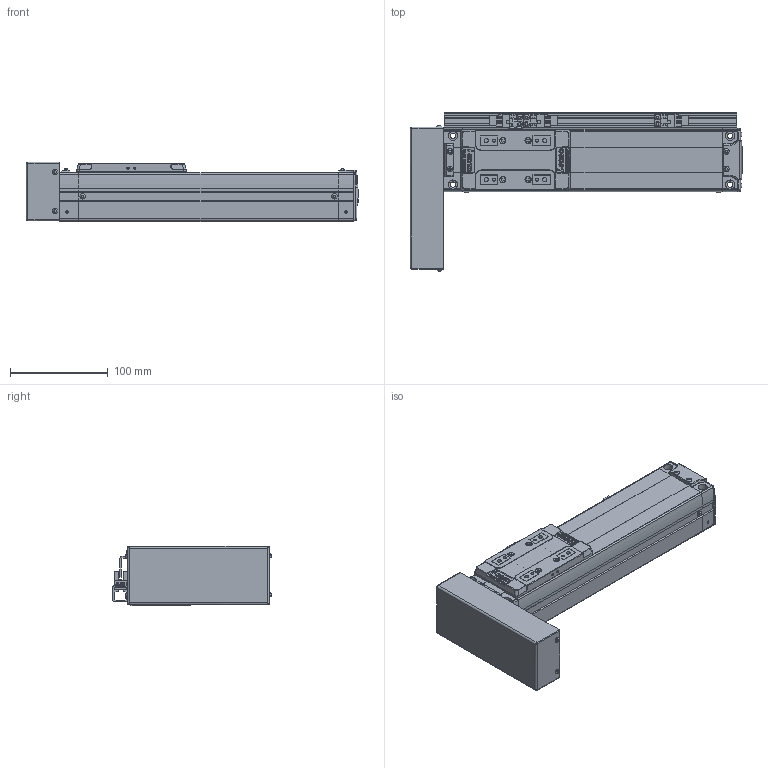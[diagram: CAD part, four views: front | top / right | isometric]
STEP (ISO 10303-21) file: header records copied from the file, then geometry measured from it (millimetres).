
FILE_DESCRIPTION(('STEP AP214'),'1');
FILE_NAME('Z:/Web/3D/SAN65/STP/SAN65ㅁㅁ-150PR+3SL.stp','2012-06-14T04:07:04',(' '),(' '),'Spatial InterOp 3D',' ',' ');
FILE_SCHEMA(('automotive_design'));
Length unit declared in the file: metre
Products named in the file (57): SAN65__-150; BODY-SAN65; REAR-SAN65; RRCV-SAN65; 스크루 : Round - M3.0 x 6.0; FRONT-SAN65; SHAFT-SAN65; RN8 x 0.75; SSFX-SAN65; SLIDE-SAN65; SLCV-SAN65; 스크루 : Countersunk - M3.0 x 6.0; ____205; PR; BTCV-SAN65; BHCS M3 X 6L; 3SL; SRL-16x17-450L; - OT; EE-SX674; SBK-SX674-352; HOME; + OT; DOG; SDG-SAN65; 스크루 : Round - M3.0 x 5.0
Assembly tree (56 placements, depth 4):
  ____205
    SAN65__-150
      BODY-SAN65
      REAR-SAN65
        REAR-SAN65
        RRCV-SAN65
        스크루 : Round - M3.0 x 6.0
        스크루 : Round - M3.0 x 6.0
        스크루 : Round - M3.0 x 6.0
        스크루 : Round - M3.0 x 6.0
        스크루 : Round - M3.0 x 6.0
        스크루 : Round - M3.0 x 6.0
      FRONT-SAN65
        FRONT-SAN65
        SHAFT-SAN65
        RN8 x 0.75
        SSFX-SAN65
        스크루 : Round - M3.0 x 6.0
        스크루 : Round - M3.0 x 6.0
        스크루 : Round - M3.0 x 6.0
        스크루 : Round - M3.0 x 6.0
      SLIDE-SAN65
        SLIDE-SAN65
        SLCV-SAN65
        스크루 : Countersunk - M3.0 x 6.0
        스크루 : Countersunk - M3.0 x 6.0
        스크루 : Countersunk - M3.0 x 6.0
        스크루 : Countersunk - M3.0 x 6.0
    PR
      BTCV-SAN65
      BHCS M3 X 6L
      BHCS M3 X 6L
      BHCS M3 X 6L
      BHCS M3 X 6L
    3SL
      SRL-16x17-450L
      스크루 : Round - M3.0 x 6.0
      스크루 : Round - M3.0 x 6.0
      - OT
        EE-SX674
        SBK-SX674-352
        스크루 : Round - M3.0 x 6.0
        스크루 : Round - M3.0 x 6.0
      HOME
        EE-SX674
        SBK-SX674-352
        스크루 : Round - M3.0 x 6.0
        스크루 : Round - M3.0 x 6.0
      + OT
        EE-SX674
        SBK-SX674-352
        스크루 : Round - M3.0 x 6.0
        스크루 : Round - M3.0 x 6.0
      DOG
        SDG-SAN65
        스크루 : Round - M3.0 x 5.0
        스크루 : Round - M3.0 x 5.0
Bounding box: 340.15 x 162.06 x 61 mm (x, y, z)
Volume: 1313294.9 mm3; surface area: 223093 mm2
Topology: 46 solids, 46 shells, 1931 faces, 4922 edges, 3210 vertices
Faces by surface type: plane 1292, cylinder 472, cone 83, sphere 36, bspline 30, torus 15, extrusion 3
Full cylindrical faces by diameter (mm): 0.571 x2, 0.706 x1, 1.727 x2, 2.132 x1, 2.2 x4, 2.5 x15, 2.528 x4, 3 x6, 3.121 x2, 3.3 x4, 3.4 x8, 3.5 x14, 4.2 x18, 4.849 x4, 5 x3, 5.5 x4, 5.987 x2, 6 x6, 6.35 x1, 6.5 x2, 7 x1, 8 x4, 9.5 x4, 13 x1, 15 x1, 19 x1, 26 x1, 38.1 x1
Entity records: 77993 total; most frequent: CARTESIAN_POINT 14871, DIRECTION 9689, ORIENTED_EDGE 9236, EDGE_CURVE 4618, VECTOR 3273, LINE 3270, AXIS2_PLACEMENT_3D 3208, VERTEX_POINT 3150
